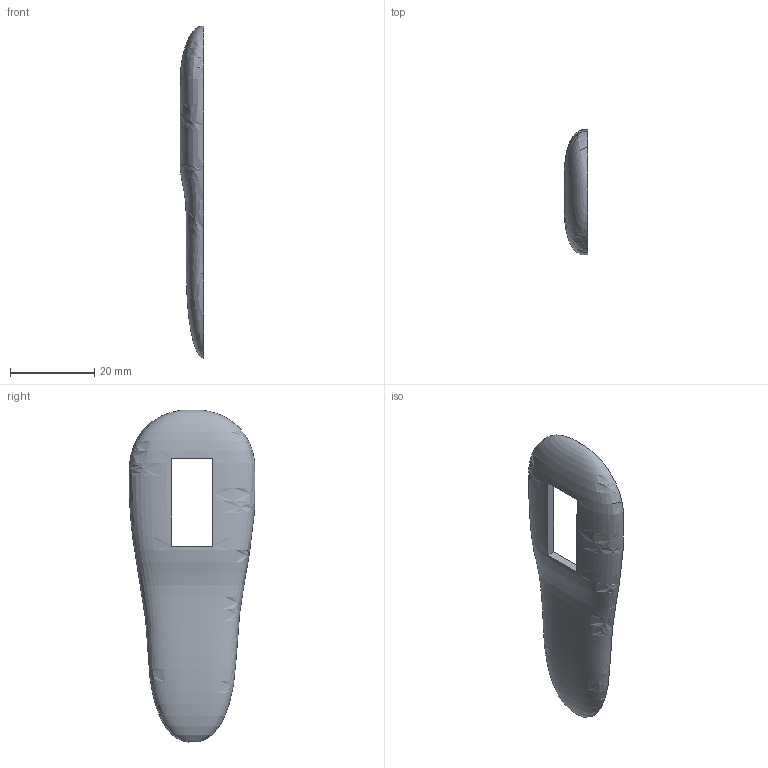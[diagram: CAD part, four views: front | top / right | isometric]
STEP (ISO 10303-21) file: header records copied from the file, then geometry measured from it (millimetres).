
FILE_DESCRIPTION(('Open CASCADE Model'),'2;1');
FILE_NAME('Open CASCADE Shape Model','2026-11-11T21:47:30',('Author'),( 'Open CASCADE'),'Open CASCADE STEP processor 8.0','build123d', 'Unknown');
FILE_SCHEMA(('AUTOMOTIVE_DESIGN { 1 0 10303 214 1 1 1 1 }'));
Length unit declared in the file: millimetre
Products named in the file (1): SOLID
Bounding box: 5.69 x 29.87 x 78.86 mm (x, y, z)
Volume: 3504.1 mm3; surface area: 4048 mm2
Topology: 1 solids, 1 shells, 8 faces, 16 edges, 11 vertices
Faces by surface type: plane 6, bspline 2
Entity records: 30985 total; most frequent: CARTESIAN_POINT 30699, B_SPLINE_CURVE_WITH_KNOTS 34, ORIENTED_EDGE 32, PCURVE 32, DEFINITIONAL_REPRESENTATION 32, DIRECTION 28, EDGE_CURVE 16, SURFACE_CURVE 16
